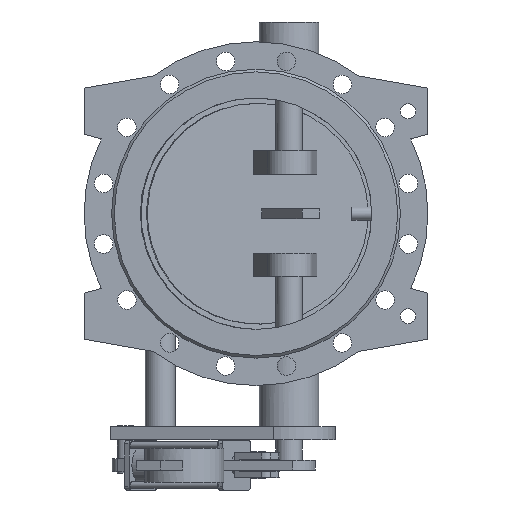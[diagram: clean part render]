
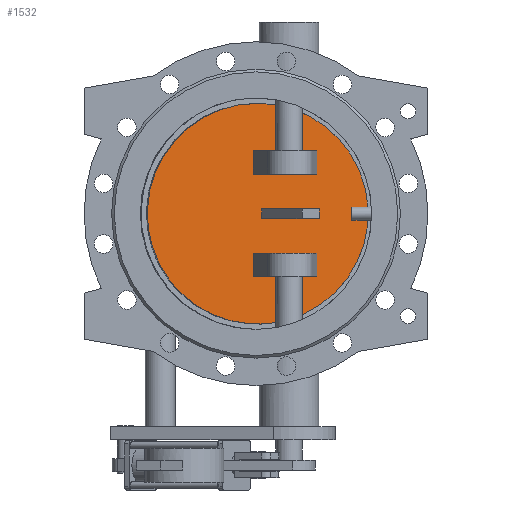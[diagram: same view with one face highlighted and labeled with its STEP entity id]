
A CAD part, front view. The second image highlights one B-rep face of the part: STEP entity #1532.
In plain terms, the highlighted planar face has unit normal (0.131, -0.991, 0).
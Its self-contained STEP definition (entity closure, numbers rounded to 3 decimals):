
#1532=ADVANCED_FACE('',(#3381,#3383,#3385,#3387),#3389,.T.);
#3381=FACE_BOUND('',#3382,.T.);
#3382=EDGE_LOOP('',(#4460));
#3383=FACE_BOUND('',#3384,.T.);
#3384=EDGE_LOOP('',(#4461,#4462,#4463,#4464));
#3385=FACE_BOUND('',#3386,.T.);
#3386=EDGE_LOOP('',(#4465,#4466,#4467,#4468));
#3387=FACE_BOUND('',#3388,.T.);
#3388=EDGE_LOOP('',(#4469,#4470,#4471,#4472));
#3389=PLANE('',#3390);
#3390=AXIS2_PLACEMENT_3D('',#3391,#3392,#3393);
#3391=CARTESIAN_POINT('',(-1.272,9.66,0.));
#3392=DIRECTION('',(0.131,-0.991,0.));
#3393=DIRECTION('',(0.,0.,-1.));
#4460=ORIENTED_EDGE('',*,*,#4939,.T.);
#4461=ORIENTED_EDGE('',*,*,#4958,.F.);
#4462=ORIENTED_EDGE('',*,*,#4959,.F.);
#4463=ORIENTED_EDGE('',*,*,#4960,.F.);
#4464=ORIENTED_EDGE('',*,*,#4961,.F.);
#4465=ORIENTED_EDGE('',*,*,#4962,.F.);
#4466=ORIENTED_EDGE('',*,*,#4963,.F.);
#4467=ORIENTED_EDGE('',*,*,#4964,.F.);
#4468=ORIENTED_EDGE('',*,*,#4965,.F.);
#4469=ORIENTED_EDGE('',*,*,#4966,.F.);
#4470=ORIENTED_EDGE('',*,*,#4967,.F.);
#4471=ORIENTED_EDGE('',*,*,#4968,.F.);
#4472=ORIENTED_EDGE('',*,*,#4969,.F.);
#4939=EDGE_CURVE('',#5637,#5637,#5638,.T.);
#4958=EDGE_CURVE('',#5675,#5676,#5677,.T.);
#4959=EDGE_CURVE('',#5678,#5675,#5679,.F.);
#4960=EDGE_CURVE('',#5680,#5678,#5681,.T.);
#4961=EDGE_CURVE('',#5676,#5680,#5682,.T.);
#4962=EDGE_CURVE('',#5683,#5684,#5685,.F.);
#4963=EDGE_CURVE('',#5686,#5683,#5687,.T.);
#4964=EDGE_CURVE('',#5688,#5686,#5689,.T.);
#4965=EDGE_CURVE('',#5684,#5688,#5690,.T.);
#4966=EDGE_CURVE('',#5691,#5692,#5693,.T.);
#4967=EDGE_CURVE('',#5694,#5691,#5695,.F.);
#4968=EDGE_CURVE('',#5696,#5694,#5697,.F.);
#4969=EDGE_CURVE('',#5692,#5696,#5698,.F.);
#5637=VERTEX_POINT('',#8609);
#5638=B_SPLINE_CURVE_WITH_KNOTS('',3,
(#8610,#8611,#8612,#8613,#8614,#8615,#8616,#8617,#8618,#8619,#8620,#8621,#8622,#8623,
#8624,#8625,#8626,#8627,#8628,#8629,#8630,#8631,#8632,#8633,#8634,#8635,#8636,#8637,
#8638,#8639,#8640,#8641,#8642,#8643,#8644,#8645,#8646,#8647,#8648,#8649,#8650,#8651,
#8652,#8653,#8654,#8655,#8656,#8657,#8658,#8659,#8660),
.UNSPECIFIED.,.T.,.F.,
(4,1,1,1,1,1,1,1,1,1,1,1,1,1,1,1,1,1,1,1,1,1,1,1,1,1,1,1,1,1,1,1,1,1,1,1,1,1,1,1,
1,1,1,1,1,1,1,1,4),
(0.,0.021,0.042,0.063,0.084,
0.105,0.126,0.147,0.168,0.189,
0.211,0.232,0.253,0.274,0.295,
0.316,0.337,0.358,0.379,0.4,
0.421,0.442,0.463,0.484,0.505,
0.526,0.548,0.569,0.59,0.611,
0.632,0.653,0.674,0.695,0.716,
0.737,0.758,0.779,0.8,0.821,
0.843,0.864,0.885,0.906,0.927,
0.948,0.969,0.986,1.),
.UNSPECIFIED.);
#5675=VERTEX_POINT('',#9302);
#5676=VERTEX_POINT('',#9303);
#5677=LINE('',#9304,#9305);
#5678=VERTEX_POINT('',#9307);
#5679=LINE('',#9308,#9309);
#5680=VERTEX_POINT('',#9311);
#5681=LINE('',#9312,#9313);
#5682=LINE('',#9315,#9316);
#5683=VERTEX_POINT('',#9318);
#5684=VERTEX_POINT('',#9319);
#5685=LINE('',#9320,#9321);
#5686=VERTEX_POINT('',#9323);
#5687=LINE('',#9324,#9325);
#5688=VERTEX_POINT('',#9327);
#5689=LINE('',#9328,#9329);
#5690=LINE('',#9331,#9332);
#5691=VERTEX_POINT('',#9334);
#5692=VERTEX_POINT('',#9335);
#5693=LINE('',#9336,#9337);
#5694=VERTEX_POINT('',#9339);
#5695=LINE('',#9340,#9341);
#5696=VERTEX_POINT('',#9343);
#5697=LINE('',#9344,#9345);
#5698=LINE('',#9347,#9348);
#8609=CARTESIAN_POINT('',(2.611,10.171,167.));
#8610=CARTESIAN_POINT('',(2.611,10.171,167.));
#8611=CARTESIAN_POINT('',(-4.724,9.205,167.));
#8612=CARTESIAN_POINT('',(-19.411,7.272,166.032));
#8613=CARTESIAN_POINT('',(-41.088,4.418,161.691));
#8614=CARTESIAN_POINT('',(-62.035,1.66,154.521));
#8615=CARTESIAN_POINT('',(-81.869,-0.951,144.642));
#8616=CARTESIAN_POINT('',(-100.223,-3.367,132.235));
#8617=CARTESIAN_POINT('',(-116.783,-5.547,117.513));
#8618=CARTESIAN_POINT('',(-131.255,-7.453,100.733));
#8619=CARTESIAN_POINT('',(-143.386,-9.05,82.188));
#8620=CARTESIAN_POINT('',(-152.963,-10.311,62.202));
#8621=CARTESIAN_POINT('',(-159.817,-11.213,41.125));
#8622=CARTESIAN_POINT('',(-163.828,-11.741,19.328));
#8623=CARTESIAN_POINT('',(-164.923,-11.885,-2.809));
#8624=CARTESIAN_POINT('',(-163.086,-11.643,-24.895));
#8625=CARTESIAN_POINT('',(-158.347,-11.019,-46.543));
#8626=CARTESIAN_POINT('',(-150.792,-10.025,-67.374));
#8627=CARTESIAN_POINT('',(-140.554,-8.677,-87.024));
#8628=CARTESIAN_POINT('',(-127.812,-6.999,-105.148));
#8629=CARTESIAN_POINT('',(-112.791,-5.022,-121.432));
#8630=CARTESIAN_POINT('',(-95.754,-2.779,-135.59));
#8631=CARTESIAN_POINT('',(-76.999,-0.31,-147.376));
#8632=CARTESIAN_POINT('',(-56.853,2.343,-156.586));
#8633=CARTESIAN_POINT('',(-35.669,5.132,-163.058));
#8634=CARTESIAN_POINT('',(-13.816,8.009,-166.681));
#8635=CARTESIAN_POINT('',(8.324,10.923,-167.39));
#8636=CARTESIAN_POINT('',(30.365,13.825,-165.174));
#8637=CARTESIAN_POINT('',(51.922,16.663,-160.07));
#8638=CARTESIAN_POINT('',(72.619,19.388,-152.168));
#8639=CARTESIAN_POINT('',(92.093,21.952,-141.604));
#8640=CARTESIAN_POINT('',(110.004,24.31,-128.563));
#8641=CARTESIAN_POINT('',(126.039,26.421,-113.271));
#8642=CARTESIAN_POINT('',(139.916,28.248,-95.995));
#8643=CARTESIAN_POINT('',(151.392,29.759,-77.036));
#8644=CARTESIAN_POINT('',(160.265,30.927,-56.728));
#8645=CARTESIAN_POINT('',(166.377,31.731,-35.424));
#8646=CARTESIAN_POINT('',(169.623,32.159,-13.499));
#8647=CARTESIAN_POINT('',(169.944,32.201,8.661));
#8648=CARTESIAN_POINT('',(167.335,31.857,30.669));
#8649=CARTESIAN_POINT('',(161.842,31.134,52.138));
#8650=CARTESIAN_POINT('',(153.564,30.044,72.692));
#8651=CARTESIAN_POINT('',(142.645,28.607,91.972));
#8652=CARTESIAN_POINT('',(129.278,26.847,109.639));
#8653=CARTESIAN_POINT('',(113.697,24.796,125.388));
#8654=CARTESIAN_POINT('',(96.18,22.49,138.939));
#8655=CARTESIAN_POINT('',(77.054,19.972,150.047));
#8656=CARTESIAN_POINT('',(56.596,17.278,158.557));
#8657=CARTESIAN_POINT('',(36.422,14.622,163.964));
#8658=CARTESIAN_POINT('',(18.283,12.234,166.532));
#8659=CARTESIAN_POINT('',(7.401,10.802,167.));
#8660=CARTESIAN_POINT('',(2.611,10.171,167.));
#9302=CARTESIAN_POINT('',(82.749,20.722,-7.5));
#9303=CARTESIAN_POINT('',(82.749,20.722,7.5));
#9304=CARTESIAN_POINT('',(82.749,20.722,-7.5));
#9305=VECTOR('',#9306,1.);
#9306=DIRECTION('',(0.,0.,1.));
#9307=CARTESIAN_POINT('',(8.391,10.932,-7.5));
#9308=CARTESIAN_POINT('',(82.749,20.722,-7.5));
#9309=VECTOR('',#9310,1.);
#9310=DIRECTION('',(-0.991,-0.131,0.));
#9311=CARTESIAN_POINT('',(8.391,10.932,7.5));
#9312=CARTESIAN_POINT('',(8.391,10.932,7.5));
#9313=VECTOR('',#9314,1.);
#9314=DIRECTION('',(0.,0.,-1.));
#9315=CARTESIAN_POINT('',(82.749,20.722,7.5));
#9316=VECTOR('',#9317,1.);
#9317=DIRECTION('',(-0.991,-0.131,0.));
#9318=CARTESIAN_POINT('',(-4.154,9.281,-95.));
#9319=CARTESIAN_POINT('',(92.142,21.958,-95.));
#9320=CARTESIAN_POINT('',(92.142,21.958,-95.));
#9321=VECTOR('',#9322,1.);
#9322=DIRECTION('',(-0.991,-0.131,0.));
#9323=CARTESIAN_POINT('',(-4.154,9.281,-60.));
#9324=CARTESIAN_POINT('',(-4.154,9.281,-60.));
#9325=VECTOR('',#9326,1.);
#9326=DIRECTION('',(0.,0.,-1.));
#9327=CARTESIAN_POINT('',(92.142,21.958,-60.));
#9328=CARTESIAN_POINT('',(92.142,21.958,-60.));
#9329=VECTOR('',#9330,1.);
#9330=DIRECTION('',(-0.991,-0.131,0.));
#9331=CARTESIAN_POINT('',(92.142,21.958,-95.));
#9332=VECTOR('',#9333,1.);
#9333=DIRECTION('',(0.,0.,1.));
#9334=CARTESIAN_POINT('',(92.142,21.958,95.));
#9335=CARTESIAN_POINT('',(-4.154,9.281,95.));
#9336=CARTESIAN_POINT('',(92.142,21.958,95.));
#9337=VECTOR('',#9338,1.);
#9338=DIRECTION('',(-0.991,-0.131,0.));
#9339=CARTESIAN_POINT('',(92.142,21.958,60.));
#9340=CARTESIAN_POINT('',(92.142,21.958,95.));
#9341=VECTOR('',#9342,1.);
#9342=DIRECTION('',(0.,0.,-1.));
#9343=CARTESIAN_POINT('',(-4.154,9.281,60.));
#9344=CARTESIAN_POINT('',(92.142,21.958,60.));
#9345=VECTOR('',#9346,1.);
#9346=DIRECTION('',(-0.991,-0.131,0.));
#9347=CARTESIAN_POINT('',(-4.154,9.281,60.));
#9348=VECTOR('',#9349,1.);
#9349=DIRECTION('',(0.,0.,1.));
